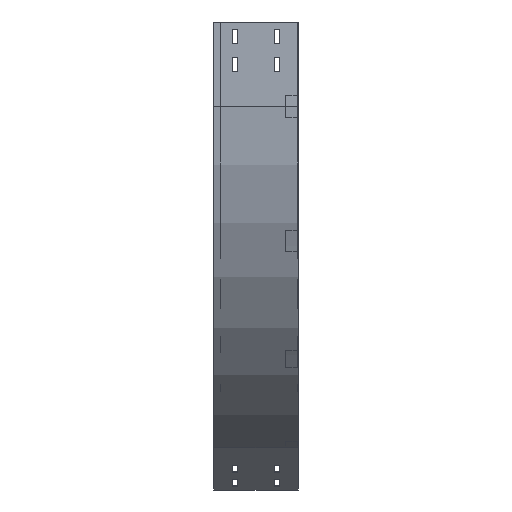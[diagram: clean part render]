
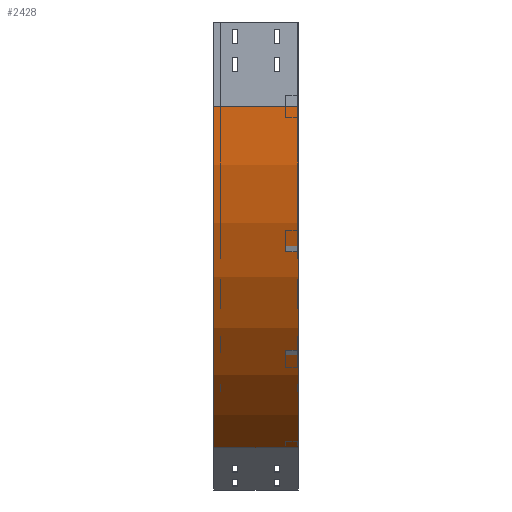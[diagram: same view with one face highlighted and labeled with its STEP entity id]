
A CAD part, left-side view. The second image highlights one B-rep face of the part: STEP entity #2428.
In plain terms, the highlighted cylindrical face has radius 700 mm (diameter 1400 mm), a partial arc.
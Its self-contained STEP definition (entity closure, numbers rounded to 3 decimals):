
#16 = CARTESIAN_POINT ( 'NONE',  ( 0., 150., -150. ) ) ;
#263 = CARTESIAN_POINT ( 'NONE',  ( 350., 0., -756.218 ) ) ;
#312 = VERTEX_POINT ( 'NONE', #2347 ) ;
#439 = ORIENTED_EDGE ( 'NONE', *, *, #811, .F. ) ;
#492 = AXIS2_PLACEMENT_3D ( 'NONE', #2720, #1817, #822 ) ;
#514 = DIRECTION ( 'NONE',  ( -1., 0., 0. ) ) ;
#544 = EDGE_LOOP ( 'NONE', ( #815, #439, #2563, #1518 ) ) ;
#617 = CIRCLE ( 'NONE', #492, 700. ) ;
#655 = DIRECTION ( 'NONE',  ( 0., -1., 0. ) ) ;
#750 = LINE ( 'NONE', #1405, #1488 ) ;
#811 = EDGE_CURVE ( 'NONE', #1154, #3361, #750, .T. ) ;
#815 = ORIENTED_EDGE ( 'NONE', *, *, #3679, .F. ) ;
#822 = DIRECTION ( 'NONE',  ( -1., 0., 0. ) ) ;
#949 = FACE_OUTER_BOUND ( 'NONE', #544, .T. ) ;
#1019 = VERTEX_POINT ( 'NONE', #1450 ) ;
#1109 = DIRECTION ( 'NONE',  ( 0., -1., 0. ) ) ;
#1150 = DIRECTION ( 'NONE',  ( 0., -1., 0. ) ) ;
#1154 = VERTEX_POINT ( 'NONE', #16 ) ;
#1405 = CARTESIAN_POINT ( 'NONE',  ( 0., 0., -150. ) ) ;
#1429 = VECTOR ( 'NONE', #1150, 1000. ) ;
#1450 = CARTESIAN_POINT ( 'NONE',  ( 350., 150., -756.218 ) ) ;
#1457 = CARTESIAN_POINT ( 'NONE',  ( 700., 0., -150. ) ) ;
#1488 = VECTOR ( 'NONE', #2003, 1000. ) ;
#1518 = ORIENTED_EDGE ( 'NONE', *, *, #1937, .T. ) ;
#1817 = DIRECTION ( 'NONE',  ( 0., -1., 0. ) ) ;
#1820 = CYLINDRICAL_SURFACE ( 'NONE', #2561, 700. ) ;
#1937 = EDGE_CURVE ( 'NONE', #1019, #312, #2944, .T. ) ;
#2003 = DIRECTION ( 'NONE',  ( 0., -1., 0. ) ) ;
#2347 = CARTESIAN_POINT ( 'NONE',  ( 350., 0., -756.218 ) ) ;
#2428 = ADVANCED_FACE ( 'NONE', ( #949 ), #1820, .T. ) ;
#2561 = AXIS2_PLACEMENT_3D ( 'NONE', #3333, #655, #2722 ) ;
#2563 = ORIENTED_EDGE ( 'NONE', *, *, #3162, .T. ) ;
#2601 = AXIS2_PLACEMENT_3D ( 'NONE', #1457, #1109, #514 ) ;
#2720 = CARTESIAN_POINT ( 'NONE',  ( 700., 150., -150. ) ) ;
#2722 = DIRECTION ( 'NONE',  ( 0., 0., -1. ) ) ;
#2944 = LINE ( 'NONE', #263, #1429 ) ;
#3146 = CIRCLE ( 'NONE', #2601, 700. ) ;
#3162 = EDGE_CURVE ( 'NONE', #1154, #1019, #617, .T. ) ;
#3333 = CARTESIAN_POINT ( 'NONE',  ( 700., 0., -150. ) ) ;
#3361 = VERTEX_POINT ( 'NONE', #3834 ) ;
#3679 = EDGE_CURVE ( 'NONE', #3361, #312, #3146, .T. ) ;
#3834 = CARTESIAN_POINT ( 'NONE',  ( 0., 0., -150. ) ) ;
